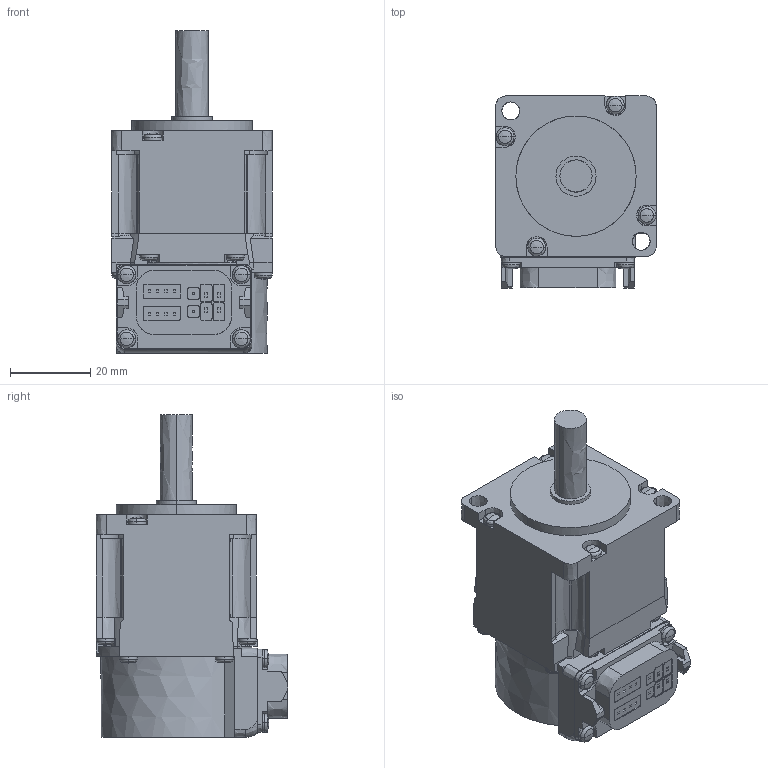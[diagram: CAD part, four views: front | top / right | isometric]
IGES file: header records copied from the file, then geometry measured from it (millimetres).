
Start section:  PTC IGES file: bc63804_-_hk-kt053w_-_asm.igs
Global section: file name: bc63804_-_hk-kt053w_-_asm.igs; native system: Creo Parametric by PTC Inc.; preprocessor: 2016380; author: XE90682; organization: Unknown; date: 20190115.162059; units: millimetre
Bounding box: 40 x 47.85 x 80.5 mm (x, y, z)
Volume: 82289.3 mm3; surface area: 13972.3 mm2
Topology: 1 solids, 1 shells, 466 faces, 1224 edges, 765 vertices
Faces by surface type: bspline 466
